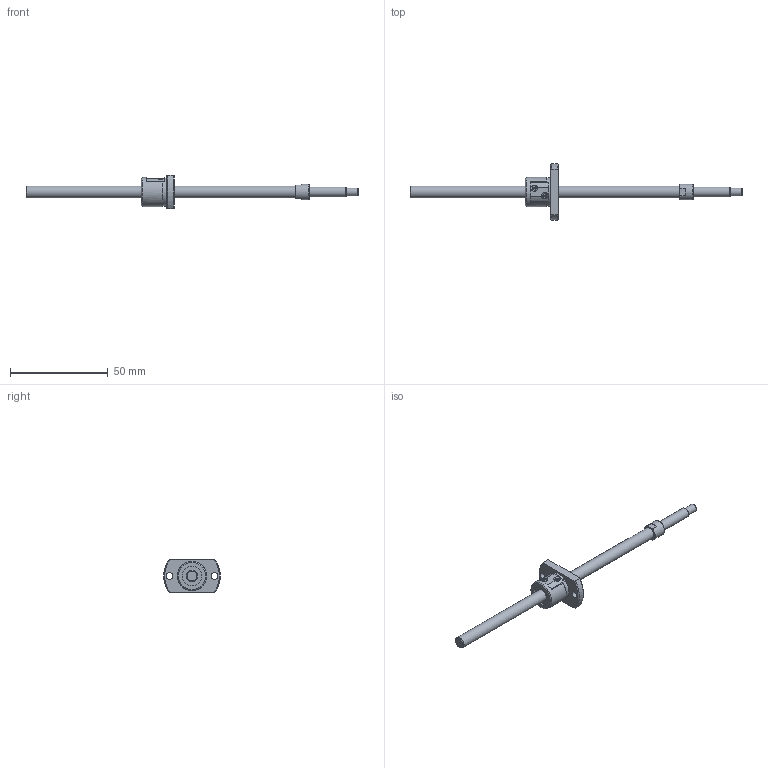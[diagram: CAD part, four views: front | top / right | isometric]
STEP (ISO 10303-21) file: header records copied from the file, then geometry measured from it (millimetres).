
FILE_DESCRIPTION( ( 'STEP AP214' ), '1' );
FILE_NAME( 'p:/temp/worker_8/1096_1344/app_62_12015063014003742718987260eae72_00_00_00_000/STEP/SG0602-135R170C3A1X_59__2_14.stp', ' ', ( ' ' ), ( ' ' ), 'PSStep 15.0.47', 'PARTsolutions', ' ' );
FILE_SCHEMA( ( 'AUTOMOTIVE_DESIGN { 1 0 10303 214 1 1 1 1 }' ) );
Length unit declared in the file: millimetre
Products named in the file (3): SG0602-135R170C3A1X(59); _SG0602-135R170C3A_shaft; _SG0602_nut
Assembly tree (2 placements, depth 2):
  SG0602-135R170C3A1X(59)
    _SG0602-135R170C3A_shaft
    _SG0602_nut
Bounding box: 170 x 29 x 17 mm (x, y, z)
Volume: 8097.5 mm3; surface area: 5451.6 mm2
Topology: 2 solids, 2 shells, 71 faces, 174 edges, 115 vertices
Faces by surface type: plane 34, cylinder 23, cone 13, torus 1
Full cylindrical faces by diameter (mm): 3.4 x2, 4 x1, 5 x1, 6 x2, 8 x1, 10 x2, 14.6 x1, 15 x1
Entity records: 2592 total; most frequent: CARTESIAN_POINT 400, DIRECTION 340, ORIENTED_EDGE 286, EDGE_CURVE 143, AXIS2_PLACEMENT_3D 141, EDGE_LOOP 106, VERTEX_POINT 105, FACE_OUTER_BOUND 83
